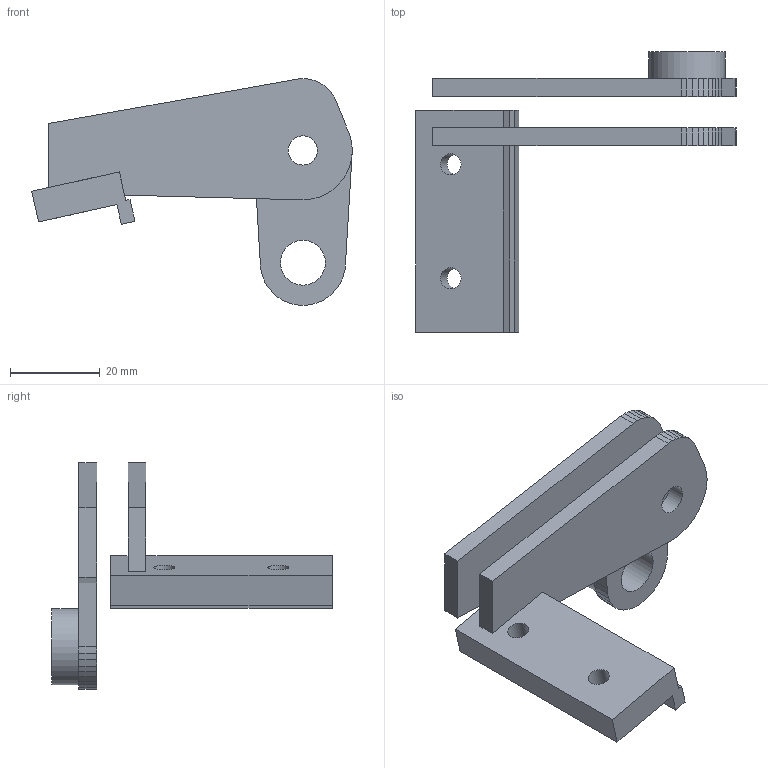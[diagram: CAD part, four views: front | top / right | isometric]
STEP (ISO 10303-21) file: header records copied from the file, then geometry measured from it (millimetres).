
FILE_DESCRIPTION(('Open CASCADE Model'),'2;1');
FILE_NAME('Open CASCADE Shape Model','2026-10-15T19:48:37',('Author'),( 'Open CASCADE'),'Open CASCADE STEP processor 7.9','Open CASCADE 7.9' ,'Unknown');
FILE_SCHEMA(('AUTOMOTIVE_DESIGN { 1 0 10303 214 1 1 1 1 }'));
Length unit declared in the file: millimetre
Products named in the file (3): Open CASCADE STEP translator 7.9 1; Open CASCADE STEP translator 7.9 1.1; Open CASCADE STEP translator 7.9 1.2
Assembly tree (2 placements, depth 2):
  Open CASCADE STEP translator 7.9 1
    Open CASCADE STEP translator 7.9 1.1
    Open CASCADE STEP translator 7.9 1.2
Bounding box: 71.41 x 62.5 x 50.5 mm (x, y, z)
Volume: 20714.4 mm3; surface area: 12025.5 mm2
Topology: 2 solids, 2 shells, 83 faces, 234 edges, 156 vertices
Faces by surface type: plane 77, cylinder 6
Full cylindrical faces by diameter (mm): 4.7 x2, 6.5 x2, 10 x1, 17 x1
Entity records: 5746 total; most frequent: CARTESIAN_POINT 998, DIRECTION 862, LINE 660, VECTOR 660, ORIENTED_EDGE 468, PCURVE 468, DEFINITIONAL_REPRESENTATION 468, EDGE_CURVE 234
